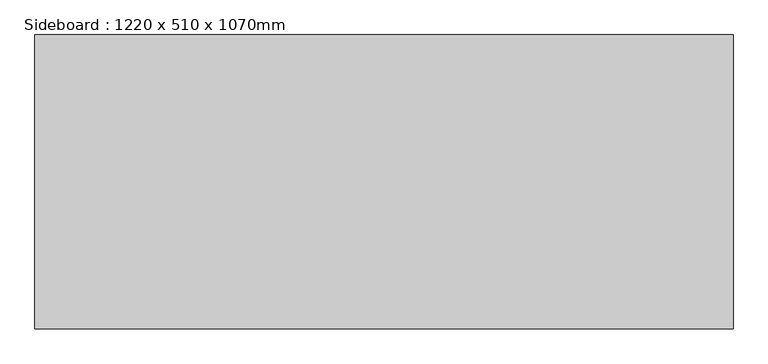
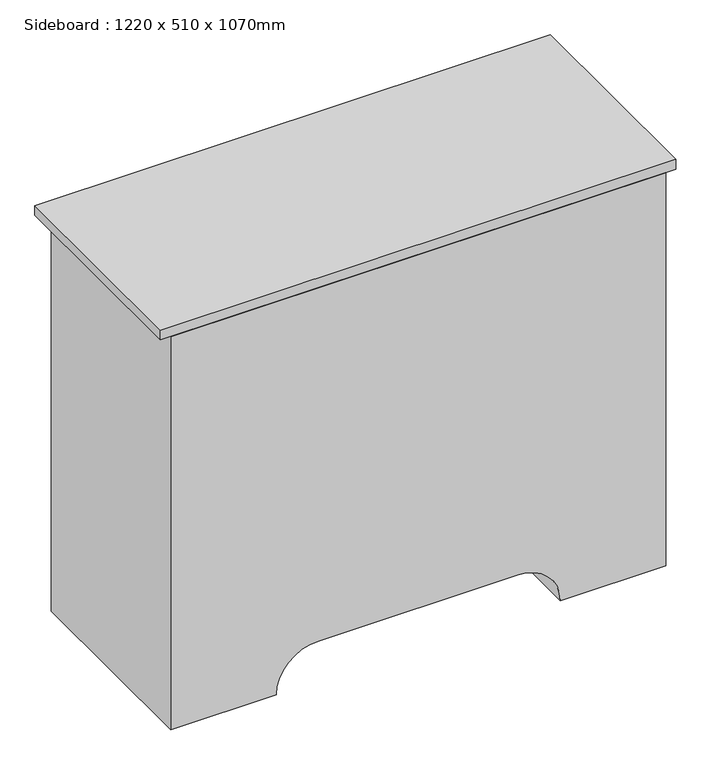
"""IFC4 building model written with IfcOpenShell, lengths in millimetres: furniture geometry, Sideboard : 1220 x 510 x 1070mm."""

from ifc_helpers import new_model, si_unit, point, frame, frame_2d, origin, place, context, project, spatial, polyline, circle_curve, trimmed, segment, composite_curve, outline, extrude, source, transform, mapped, element, save


def sideboard_1220_x_510_x_1070mm_a7be34db(model_context):
    return source(origin(), model_context, "Body", "SweptSolid", [
        extrude(outline(composite_curve([segment(polyline([(0.3974948, 315.4067402), (1024.9401786, 315.4067402), (1024.9401786, -904.5932598), (0.3401786, -904.5932598), (0.3401786, -644.7676781)]), True, "CONTINUOUS"), segment(trimmed(circle_curve(frame_2d((0.3401786, -541.2410879)), 103.5265902), [point((0.3401786, -644.7676781))], [point((103.8667688, -541.2410879))], True, "CARTESIAN"), True, "CONTINUOUS"), segment(polyline([(103.8667688, -541.2410879), (103.8667688, -47.5265362)]), True, "CONTINUOUS"), segment(trimmed(circle_curve(frame_2d((0.3974948, -47.5265362)), 103.469274), [point((103.8667688, -47.5265362))], [point((0.3974948, 55.9427378))], True, "CARTESIAN"), True, "CONTINUOUS"), segment(polyline([(0.3974948, 55.9427378), (0.3974948, 315.4067402)]), True, "CONTINUOUS")], self_intersect=False)), frame((0.0, 108.1629541, 0.0), z_axis=(0.0, 1.0, 0.0), x_axis=(0.0, 0.0, 1.0)), (0.0, 0.0, 1.0), 510.0),
        extrude(outline(polyline([(-536.0265932, 630.8629541), (-536.0265932, 624.5129541), (-561.4265932, 624.5129541), (-561.4265932, 630.8629541), (-536.0265932, 630.8629541)])), frame((0.0, 0.0, 516.758125), z_axis=(0.0, 0.0, 1.0), x_axis=(1.0, 0.0, 0.0)), (0.0, 0.0, 1.0), 118.56),
        extrude(outline(polyline([(-244.5230145, 630.8629541), (-244.5230145, 624.5129541), (-346.0702491, 624.5129541), (-346.0702491, 630.8629541), (-244.5230145, 630.8629541)])), frame((0.0, 0.0, 948.7401786), z_axis=(0.0, 0.0, 1.0), x_axis=(1.0, 0.0, 0.0)), (0.0, 0.0, 1.0), 25.4),
        extrude(outline(polyline([(-244.5230145, 630.8629541), (-244.5230145, 624.5129541), (-346.0702491, 624.5129541), (-346.0702491, 630.8629541), (-244.5230145, 630.8629541)])), frame((0.0, 0.0, 779.3121429), z_axis=(0.0, 0.0, 1.0), x_axis=(1.0, 0.0, 0.0)), (0.0, 0.0, 1.0), 25.4),
        extrude(outline(polyline([(-244.5230145, 630.8629541), (-244.5230145, 624.5129541), (-346.0702491, 624.5129541), (-346.0702491, 630.8629541), (-244.5230145, 630.8629541)])), frame((0.0, 0.0, 609.918125), z_axis=(0.0, 0.0, 1.0), x_axis=(1.0, 0.0, 0.0)), (0.0, 0.0, 1.0), 25.4),
        extrude(outline(polyline([(-244.5230145, 630.8629541), (-244.5230145, 624.5129541), (-346.0702491, 624.5129541), (-346.0702491, 630.8629541), (-244.5230145, 630.8629541)])), frame((0.0, 0.0, 334.5620536), z_axis=(0.0, 0.0, 1.0), x_axis=(1.0, 0.0, 0.0)), (0.0, 0.0, 1.0), 33.88),
        extrude(outline(polyline([(-27.7599265, 630.8629541), (-27.7599265, 624.5129541), (-53.1599265, 624.5129541), (-53.1599265, 630.8629541), (-27.7599265, 630.8629541)])), frame((0.0, 0.0, 516.758125), z_axis=(0.0, 0.0, 1.0), x_axis=(1.0, 0.0, 0.0)), (0.0, 0.0, 1.0), 118.56),
        extrude(outline(polyline([(-510.6265932, 624.5129541), (-510.6265932, 618.1629541), (-879.1932598, 618.1629541), (-879.1932598, 624.5129541), (-510.6265932, 624.5129541)])), frame((0.0, 0.0, 152.4), z_axis=(0.0, 0.0, 1.0), x_axis=(1.0, 0.0, 0.0)), (0.0, 0.0, 1.0), 847.1401786),
        extrude(outline(polyline([(290.0067402, 624.5129541), (290.0067402, 618.1629541), (-78.5599265, 618.1629541), (-78.5599265, 624.5129541), (290.0067402, 624.5129541)])), frame((0.0, 0.0, 152.4), z_axis=(0.0, 0.0, 1.0), x_axis=(1.0, 0.0, 0.0)), (0.0, 0.0, 1.0), 847.1401786),
        extrude(outline(polyline([(-103.9599265, 624.5129541), (-103.9599265, 618.1629541), (-485.2265932, 618.1629541), (-485.2265932, 624.5129541), (-103.9599265, 624.5129541)])), frame((0.0, 0.0, 855.5121429), z_axis=(0.0, 0.0, 1.0), x_axis=(1.0, 0.0, 0.0)), (0.0, 0.0, 1.0), 144.0280357),
        extrude(outline(polyline([(-103.9599265, 624.5129541), (-103.9599265, 618.1629541), (-485.2265932, 618.1629541), (-485.2265932, 624.5129541), (-103.9599265, 624.5129541)])), frame((0.0, 0.0, 686.0841071), z_axis=(0.0, 0.0, 1.0), x_axis=(1.0, 0.0, 0.0)), (0.0, 0.0, 1.0), 144.0280357),
        extrude(outline(polyline([(-103.9599265, 624.5129541), (-103.9599265, 618.1629541), (-485.2265932, 618.1629541), (-485.2265932, 624.5129541), (-103.9599265, 624.5129541)])), frame((0.0, 0.0, 419.2420536), z_axis=(0.0, 0.0, 1.0), x_axis=(1.0, 0.0, 0.0)), (0.0, 0.0, 1.0), 241.4420536),
        extrude(outline(polyline([(-103.9599265, 624.5129541), (-103.9599265, 618.1629541), (-485.2265932, 618.1629541), (-485.2265932, 624.5129541), (-103.9599265, 624.5129541)])), frame((0.0, 0.0, 152.4), z_axis=(0.0, 0.0, 1.0), x_axis=(1.0, 0.0, 0.0)), (0.0, 0.0, 1.0), 241.4420536),
        extrude(outline(polyline([(340.8067402, 643.5629541), (340.8067402, 108.1629541), (-929.9932598, 108.1629541), (-929.9932598, 643.5629541), (340.8067402, 643.5629541)])), frame((0.0, 0.0, 1024.9401786), z_axis=(0.0, 0.0, 1.0), x_axis=(1.0, 0.0, 0.0)), (0.0, 0.0, 1.0), 25.4),
    ])


if __name__ == "__main__":
    model = new_model("IFC4")
    model_context = context("Model", 3, world=origin())
    ifc_project = project(units=[si_unit("LENGTHUNIT", "METRE", prefix="MILLI")], contexts=[model_context])
    site = spatial("IfcSite", under=ifc_project)
    building = spatial("IfcBuilding", under=site)
    placement = place(None, origin())
    sideboard_1220_x_510_x_1070mm_shape = sideboard_1220_x_510_x_1070mm_a7be34db(model_context)
    element("IfcFurniture", 1, ObjectType="Sideboard : 1220 x 510 x 1070mm", at=placement, inside=building, context=model_context, shape_type="MappedRepresentation", body=[
        mapped(sideboard_1220_x_510_x_1070mm_shape, transform((0.0, 0.0, 0.0), x_axis=(1.0, 0.0, 0.0), y_axis=(0.0, 1.0, 0.0), z_axis=(0.0, 0.0, 1.0))),
    ])
    save(model, "model.ifc")
